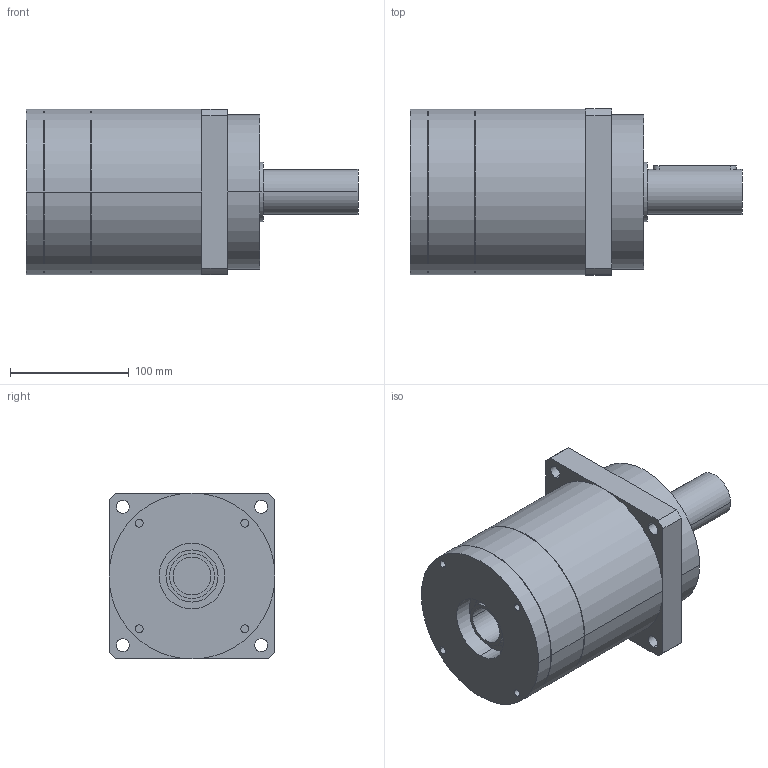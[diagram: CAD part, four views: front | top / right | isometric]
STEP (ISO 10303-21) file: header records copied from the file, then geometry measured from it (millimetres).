
FILE_DESCRIPTION(('CoCreate Modeling STEP Export'),'2;1');
FILE_NAME('GPR150_ig-3-4-5-7_38_B5_32_P01.stp','2014-08-19T16:42:53',(''),(''),'CoCreate Modeling STEP processor for AP214 (Solid Model)','CoCreate Modeling 16.00C 25-Feb-2009 (C) Parametric Technology GmbH','');
FILE_SCHEMA(('AUTOMOTIVE_DESIGN { 1 0 10303 214 1 1 1 1 }'));
Length unit declared in the file: millimetre
Products named in the file (2): GPR150_ig-3-4-5-7_38_B5_32_P01
Assembly tree (1 placements, depth 2):
  GPR150_ig-3-4-5-7_38_B5_32_P01
    GPR150_ig-3-4-5-7_38_B5_32_P01
Bounding box: 280 x 140 x 140 mm (x, y, z)
Volume: 3062793.6 mm3; surface area: 154172.9 mm2
Topology: 1 solids, 1 shells, 88 faces, 222 edges, 152 vertices
Faces by surface type: cylinder 52, plane 30, cone 6
Entity records: 2317 total; most frequent: ORIENTED_EDGE 440, CARTESIAN_POINT 424, DIRECTION 320, EDGE_CURVE 220, VERTEX_POINT 152, AXIS2_PLACEMENT_3D 120, EDGE_LOOP 114, FACE_OUTER_BOUND 88
